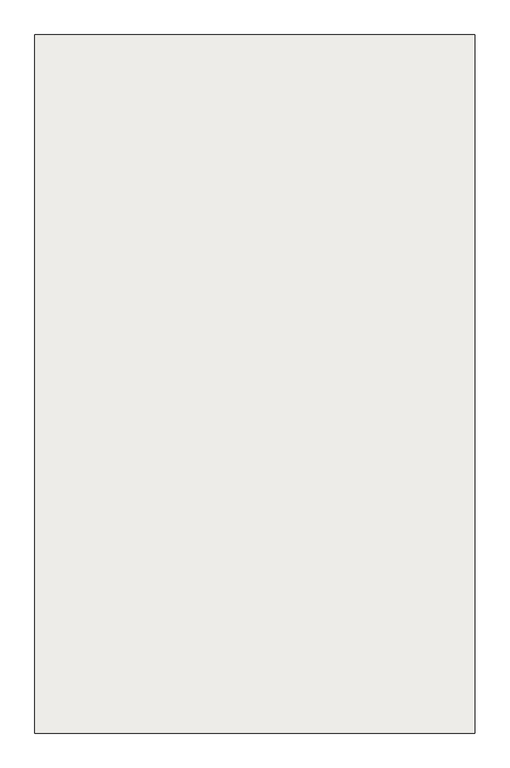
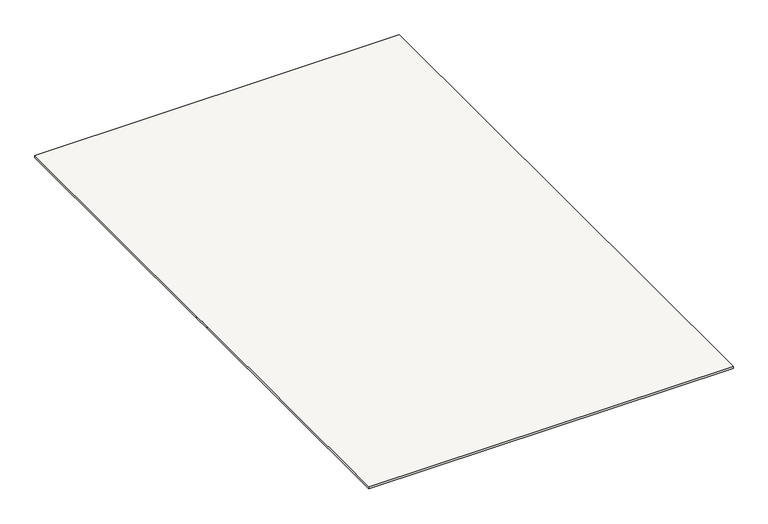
"""IFC4 building model written with IfcOpenShell, lengths in millimetres: slab geometry, Non-Monolitic_Landing."""

import ifcopenshell
import ifcopenshell.guid

model = None  # the IFC model being written
_history = None  # IfcOwnerHistory: only IFC2X3 demands one
_inside = {}  # id of a spatial element -> (the spatial element, [elements in it])
_under = {}  # id of a project, library or spatial element -> (it, [spatial elements below it])
_declared = {}  # id of a project -> (the project, [libraries it declares])
_typed = {}  # id of a type object -> (the type object, [elements of that type])
_made_of = {}  # id of a material, layer set ... -> (it, [elements and type objects made of it])


def new_model(schema):
    """Start an empty IFC model of exactly this schema.

    Asked for "IFC4X3", IfcOpenShell would pick the latest addendum, in which some entities
    have other attributes; the version numbers below select the first issue.
    IFC2X3 requires an IfcOwnerHistory on every rooted entity: one is made here for all.
    """
    global model, _history
    if schema == "IFC4X3":
        model = ifcopenshell.file(schema_version=(4, 3, 0, 0))
    else:
        model = ifcopenshell.file(schema=schema)
    _inside.clear()
    _under.clear()
    _declared.clear()
    _typed.clear()
    _made_of.clear()
    _history = None
    if model.schema == "IFC2X3":
        org = make("IfcOrganization", Name="unknown")
        user = make(
            "IfcPersonAndOrganization",
            ThePerson=make("IfcPerson", FamilyName="unknown"),
            TheOrganization=org,
        )
        app = make(
            "IfcApplication",
            ApplicationDeveloper=org,
            Version="unknown",
            ApplicationFullName="unknown",
            ApplicationIdentifier="unknown",
        )
        _history = make(
            "IfcOwnerHistory",
            OwningUser=user,
            OwningApplication=app,
            ChangeAction="ADDED",
            CreationDate=0,
        )
    return model


def make(cls, **values):
    """One entity of the class cls with the attributes given. An attribute that is None is left unset."""
    return model.create_entity(
        cls, **{name: value for name, value in values.items() if value is not None}
    )


def rooted(cls, **values):
    """An entity with a GlobalId (a new one), such as an element, a storey or a relation."""
    return make(cls, GlobalId=ifcopenshell.guid.new(), OwnerHistory=_history, **values)


def si_unit(unit_type, name, prefix=None):
    """IfcSIUnit, for example si_unit("LENGTHUNIT", "METRE", prefix="MILLI")."""
    return make("IfcSIUnit", UnitType=unit_type, Prefix=prefix, Name=name)


def assignment(units):
    """IfcUnitAssignment: the units of a project."""
    return None if units is None else make("IfcUnitAssignment", Units=units)


def point(xyz):
    """IfcCartesianPoint."""
    return None if xyz is None else make("IfcCartesianPoint", Coordinates=xyz)


def direction(xyz):
    """IfcDirection."""
    return None if xyz is None else make("IfcDirection", DirectionRatios=xyz)


def frame(location, z_axis=None, x_axis=None):
    """IfcAxis2Placement3D, a coordinate frame: its origin and axes. An axis left out is left unset."""
    return make(
        "IfcAxis2Placement3D",
        Location=point(location),
        Axis=direction(z_axis),
        RefDirection=direction(x_axis),
    )


def origin():
    """The frame at (0, 0, 0) with its axes left unset."""
    return frame((0.0, 0.0, 0.0))


def place(relative_to, where):
    """IfcLocalPlacement: puts the frame where relative to a parent placement (None: the world)."""
    return make(
        "IfcLocalPlacement", PlacementRelTo=relative_to, RelativePlacement=where
    )


def context(
    kind, dimensions, precision=None, world=None, true_north=None, identifier=None
):
    """IfcGeometricRepresentationContext, for example the 3D "Model" context."""
    return make(
        "IfcGeometricRepresentationContext",
        ContextIdentifier=identifier,
        ContextType=kind,
        CoordinateSpaceDimension=dimensions,
        Precision=precision,
        WorldCoordinateSystem=world,
        TrueNorth=true_north,
    )


def project(units=None, contexts=None):
    """IfcProject with its units and contexts."""
    return rooted(
        "IfcProject",
        Name="project",
        RepresentationContexts=contexts,
        UnitsInContext=assignment(units),
    )


def spatial(cls, under=None, at=None, **own):
    """A site, building, storey or space (cls), placed at a placement, below another one or the project."""
    s = rooted(cls, ObjectPlacement=at, **own)
    if under is not None:
        _under.setdefault(under.id(), (under, []))[1].append(s)
    return s


def polyline(points):
    """IfcPolyline through the points."""
    return make("IfcPolyline", Points=[point(p) for p in points])


def outline(outer, holes=None, kind="AREA"):
    """IfcArbitraryClosedProfileDef: a profile drawn as a closed curve; with holes, ...WithVoids."""
    if holes is None:
        return make("IfcArbitraryClosedProfileDef", ProfileType=kind, OuterCurve=outer)
    return make(
        "IfcArbitraryProfileDefWithVoids",
        ProfileType=kind,
        OuterCurve=outer,
        InnerCurves=holes,
    )


def extrude(swept, where, along, depth):
    """IfcExtrudedAreaSolid: the profile swept, set in the frame where, extruded along a direction by depth."""
    return make(
        "IfcExtrudedAreaSolid",
        SweptArea=swept,
        Position=where,
        ExtrudedDirection=direction(along),
        Depth=depth,
    )


def shape(context_of_items, identifier, shape_type, items):
    """IfcShapeRepresentation: the items that make up one representation, for example the "Body"."""
    return make(
        "IfcShapeRepresentation",
        ContextOfItems=context_of_items,
        RepresentationIdentifier=identifier,
        RepresentationType=shape_type,
        Items=items,
    )


def source(mapping_origin, context_of_items, identifier, shape_type, items):
    """IfcRepresentationMap: a shape defined once, which mapped items show again and again."""
    return make(
        "IfcRepresentationMap",
        MappingOrigin=mapping_origin,
        MappedRepresentation=shape(context_of_items, identifier, shape_type, items),
    )


def transform(
    local_origin,
    x_axis=None,
    y_axis=None,
    z_axis=None,
    scale=None,
    scale2=None,
    scale3=None,
    uniform=True,
):
    """IfcCartesianTransformationOperator3D, or its non-uniform kind. x_axis, y_axis, z_axis: its Axis1, 2, 3."""
    if uniform:
        return make(
            "IfcCartesianTransformationOperator3D",
            Axis1=direction(x_axis),
            Axis2=direction(y_axis),
            LocalOrigin=point(local_origin),
            Scale=scale,
            Axis3=direction(z_axis),
        )
    return make(
        "IfcCartesianTransformationOperator3DnonUniform",
        Axis1=direction(x_axis),
        Axis2=direction(y_axis),
        LocalOrigin=point(local_origin),
        Scale=scale,
        Axis3=direction(z_axis),
        Scale2=scale2,
        Scale3=scale3,
    )


def mapped(mapping_source, mapping_target):
    """IfcMappedItem: shows the shape of a source again, moved by a transform."""
    return make(
        "IfcMappedItem", MappingSource=mapping_source, MappingTarget=mapping_target
    )


def made_of(thing, what):
    """Note that an element or type object is made of a material, layer set ...; save() writes the relation."""
    if what is not None:
        _made_of.setdefault(what.id(), (what, []))[1].append(thing)
    return thing


def element(
    cls,
    number,
    at=None,
    inside=None,
    cuts=None,
    type_object=None,
    material=None,
    context=None,
    identifier="Body",
    shape_type=None,
    held_by="IfcProductDefinitionShape",
    body=None,
    shapes=None,
    **own,
):
    """One element of the class cls, such as IfcWall. Its Tag is "e" and its number.

    at: its placement. inside: the storey or other place that contains it. cuts: it is an
    opening in that element (IfcRelVoidsElement). A single representation is given by context,
    identifier, shape_type and body (its items); several are given by shapes. held_by: the class
    of the entity that holds the representations. save() writes the other relations.
    """
    e = rooted(cls, Tag="e%d" % number, ObjectPlacement=at, **own)
    if body is not None:
        shapes = [shape(context, identifier, shape_type, body)]
    if shapes is not None:
        e.Representation = make(held_by, Representations=shapes)
    if inside is not None:
        _inside.setdefault(inside.id(), (inside, []))[1].append(e)
    if cuts is not None:
        rooted(
            "IfcRelVoidsElement", RelatingBuildingElement=cuts, RelatedOpeningElement=e
        )
    if type_object is not None:
        _typed.setdefault(type_object.id(), (type_object, []))[1].append(e)
    return made_of(e, material)


def aggregate(whole, parts):
    """IfcRelAggregates: a whole, such as a stair, and the parts it consists of."""
    return rooted("IfcRelAggregates", RelatingObject=whole, RelatedObjects=parts)


def save(model, path):
    """Write the relations noted so far, then the file.

    IfcRelAggregates (storeys below a building ...), IfcRelContainedInSpatialStructure (elements
    in a storey), IfcRelDefinesByType, IfcRelAssociatesMaterial and IfcRelDeclares: one each for
    every whole, place, type object, material and project.
    """
    for whole, parts in _under.values():
        aggregate(whole, parts)
    for where, things in _inside.values():
        rooted(
            "IfcRelContainedInSpatialStructure",
            RelatedElements=things,
            RelatingStructure=where,
        )
    for kind, things in _typed.values():
        rooted("IfcRelDefinesByType", RelatedObjects=things, RelatingType=kind)
    for what, things in _made_of.values():
        rooted("IfcRelAssociatesMaterial", RelatedObjects=things, RelatingMaterial=what)
    for by, libraries in _declared.values():
        rooted("IfcRelDeclares", RelatingContext=by, RelatedDefinitions=libraries)
    model.write(path)


def slab_d3fe248f(model_context):
    return source(origin(), model_context, "Body", "SweptSolid", [
        extrude(outline(polyline([(2198.5041438, -3354.3473686), (2198.5041438, -3274.8316761), (2198.5041438, -2084.8316761), (3748.5041438, -2084.8316761), (3748.5041438, -4544.3473686), (2198.5041438, -4544.3473686), (2198.5041438, -3354.3473686)])), frame((0.0, 0.0, 9375.0), z_axis=(0.0, 0.0, 1.0), x_axis=(1.0, 0.0, 0.0)), (0.0, 0.0, 1.0), 10.0),
    ])


if __name__ == "__main__":
    model = new_model("IFC4")
    model_context = context("Model", 3, world=origin())
    ifc_project = project(units=[si_unit("LENGTHUNIT", "METRE", prefix="MILLI")], contexts=[model_context])
    site = spatial("IfcSite", under=ifc_project)
    building = spatial("IfcBuilding", under=site)
    placement = place(None, origin())
    slab_shape = slab_d3fe248f(model_context)
    element("IfcSlab", 1, ObjectType="Non-Monolitic_Landing", at=placement, inside=building, context=model_context, shape_type="MappedRepresentation", body=[
        mapped(slab_shape, transform((0.0, 0.0, 0.0), x_axis=(1.0, 0.0, 0.0), y_axis=(0.0, 1.0, 0.0), z_axis=(0.0, 0.0, 1.0))),
    ])
    save(model, "model.ifc")
